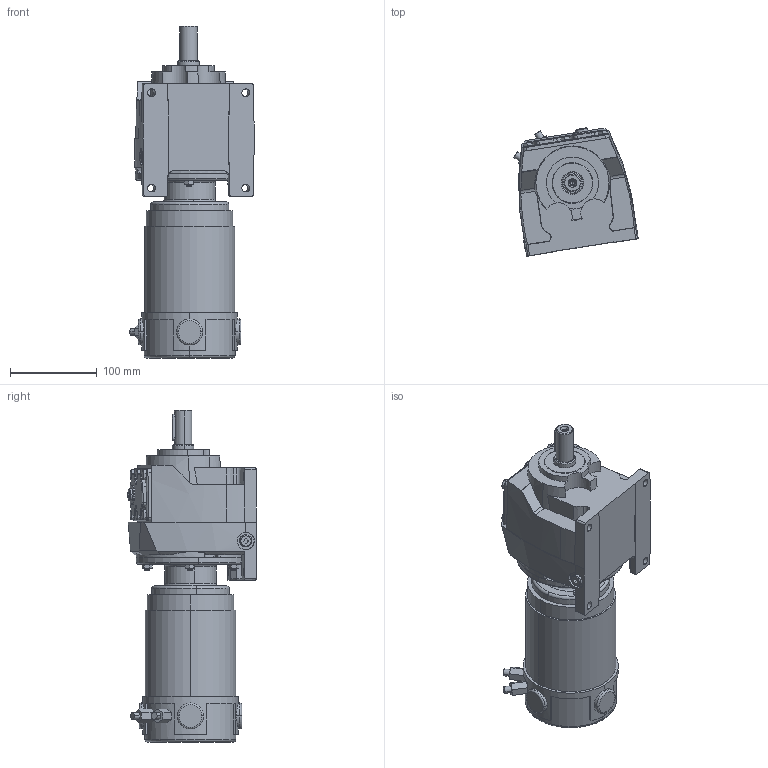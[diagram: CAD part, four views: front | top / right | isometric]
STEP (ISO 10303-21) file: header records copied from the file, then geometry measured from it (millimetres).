
FILE_DESCRIPTION (( 'STEP AP203' ), '1' );
FILE_NAME ('MV003-63_DC250_IP40.STEP', '2023-09-15T07:25:05', ( '' ), ( '' ), 'SwSTEP 2.0', 'SolidWorks 2021', '' );
FILE_SCHEMA (( 'CONFIG_CONTROL_DESIGN' ));
Length unit declared in the file: millimetre
Products named in the file (6): MV003-63_DC250_IP40; ML11A_Varsayìlan; EC_250_120_63_B14_IP40.3d; MN_00_3_0_A-B06_B14; M003_Varsayìlan; 0363B14_Varsayìlan
Assembly tree (5 placements, depth 3):
  MV003-63_DC250_IP40
    EC_250_120_63_B14_IP40.3d
    MN_00_3_0_A-B06_B14
      M003_Varsayìlan
      0363B14_Varsayìlan
      ML11A_Varsayìlan
Bounding box: 143.71 x 148.07 x 383 mm (x, y, z)
Volume: 3194780.8 mm3; surface area: 240389.1 mm2
Topology: 4 solids, 24 shells, 852 faces, 2060 edges, 1258 vertices
Faces by surface type: plane 301, cone 255, cylinder 254, bspline 24, torus 18
Entity records: 26808 total; most frequent: CARTESIAN_POINT 6319, DIRECTION 4323, ORIENTED_EDGE 4084, EDGE_CURVE 2042, AXIS2_PLACEMENT_3D 1716, VERTEX_POINT 1258, EDGE_LOOP 928, VECTOR 891
